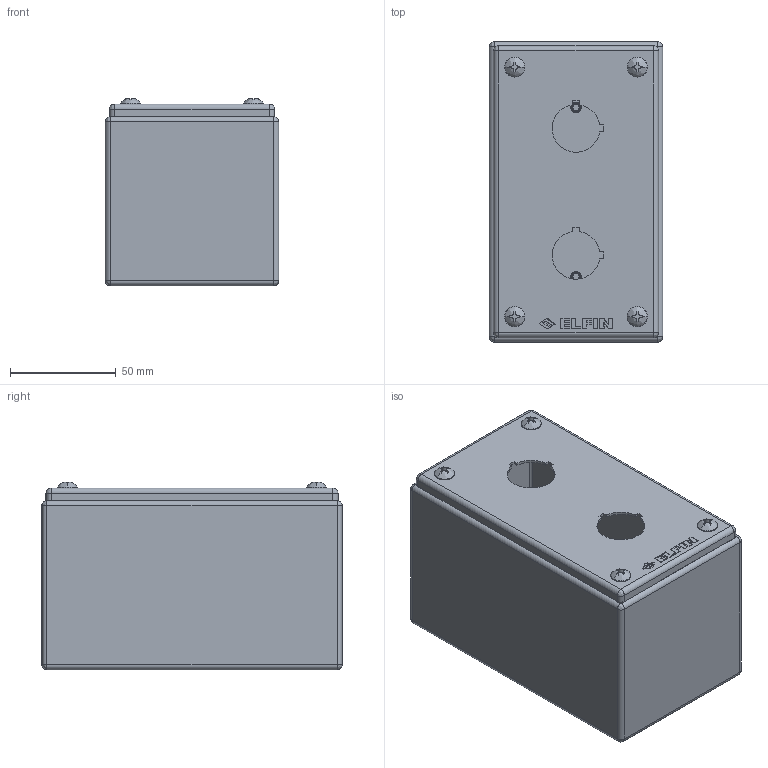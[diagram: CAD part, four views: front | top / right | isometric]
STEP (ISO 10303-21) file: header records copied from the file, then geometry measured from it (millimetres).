
FILE_DESCRIPTION (( 'STEP AP214' ), '1' );
FILE_NAME ('040X0814-8P2.STEP', '2025-05-09T11:29:26', ( '' ), ( '' ), 'SwSTEP 2.0', 'SolidWorks 2013', '' );
FILE_SCHEMA (( 'AUTOMOTIVE_DESIGN' ));
Length unit declared in the file: millimetre
Products named in the file (1): 040X0814-8P2
Bounding box: 82 x 142 x 88.8 mm (x, y, z)
Volume: 73709.5 mm3; surface area: 123930.1 mm2
Topology: 13 solids, 13 shells, 464 faces, 1113 edges, 671 vertices
Faces by surface type: plane 270, cylinder 112, bspline 48, cone 28, torus 6
Entity records: 19170 total; most frequent: CARTESIAN_POINT 3377, ORIENTED_EDGE 2178, DIRECTION 2146, EDGE_CURVE 1089, AXIS2_PLACEMENT_3D 720, VECTOR 706, LINE 706, VERTEX_POINT 671
